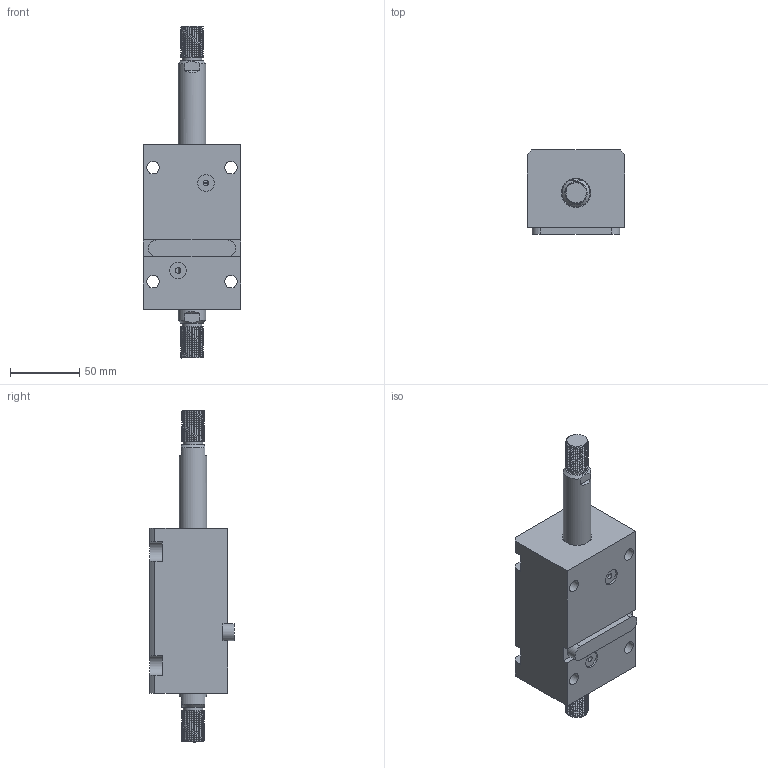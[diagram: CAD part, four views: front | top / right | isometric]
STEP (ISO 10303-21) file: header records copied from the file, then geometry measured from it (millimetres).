
FILE_DESCRIPTION(/* description */ (''),/* implementation_level */ '2;1');
FILE_NAME(/* name */ 'CHTB-LWM32-50W.stp',/* time_stamp */ '2022-04-29T16:33:36+08:00',/* author */ (''),/* organization */ (''),/* preprocessor_version */ 'ST-DEVELOPER v16.7',/* originating_system */ 'SIEMENS PLM Software NX 12.0',/* authorisation */ '');
FILE_SCHEMA (('AUTOMOTIVE_DESIGN { 1 0 10303 214 3 1 1 1 }'));
Length unit declared in the file: millimetre
Products named in the file (1): CHTB-LWM32-50W
Bounding box: 70 x 60.5 x 239 mm (x, y, z)
Volume: 451990.3 mm3; surface area: 82243.5 mm2
Topology: 3 solids, 3 shells, 505 faces, 1506 edges, 1049 vertices
Faces by surface type: plane 328, extrusion 87, cylinder 55, bspline 14, torus 12, cone 9
Full cylindrical faces by diameter (mm): 3 x2, 4 x2, 9 x4, 12 x2, 14 x2, 20 x4, 24.5 x1, 26 x2, 28 x1, 32 x5, 38 x9, 40 x1
Entity records: 27546 total; most frequent: CARTESIAN_POINT 12565, ORIENTED_EDGE 2876, DIRECTION 2019, EDGE_CURVE 1438, VERTEX_POINT 1037, VECTOR 1013, LINE 926, EDGE_LOOP 599
